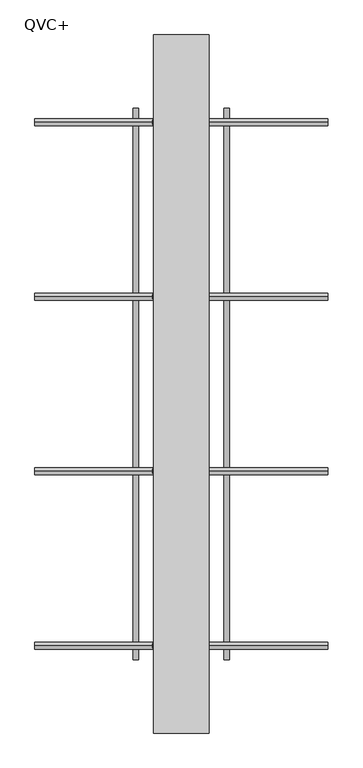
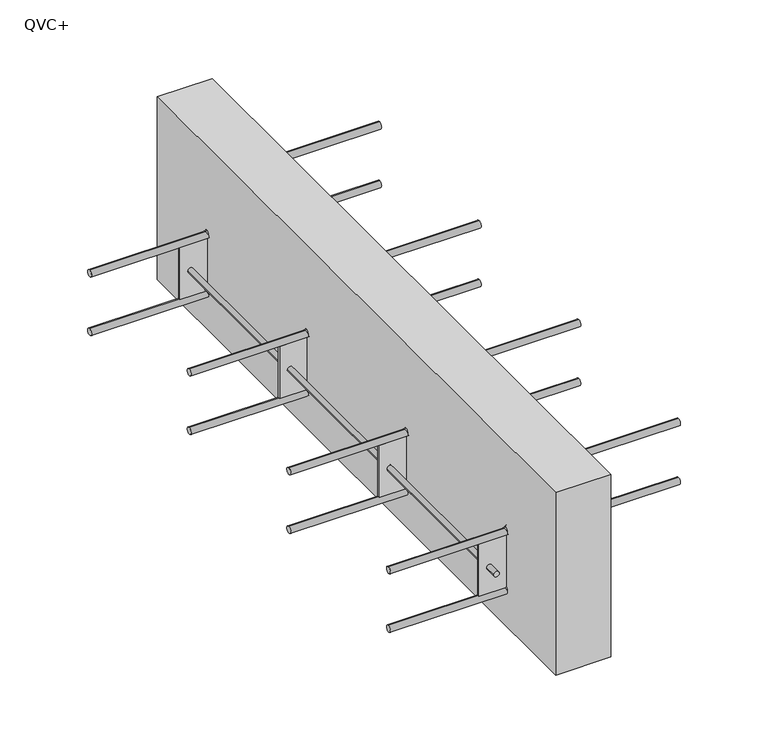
"""IFC4 building model written with IfcOpenShell, lengths in millimetres: proxy geometry, ACINOXplus_Typenreihe_QV : QVC+."""

from ifc_helpers import new_model, si_unit, point, frame, frame_2d, origin, place, context, project, spatial, polyline, circle_curve, ellipse_curve, trimmed, segment, composite_curve, outline, extrude, source, transform, mapped, element, save
from ifc_brep_helpers import plane_surface, cylinder_surface, advanced_brep


def qvc_5e56f12e(model_context):
    return source(origin(), model_context, "Body", "SolidModel", [
        extrude(outline(polyline([(40.0, 500.0), (40.0, -500.0), (-40.0, -500.0), (-40.0, 500.0), (40.0, 500.0)])), frame((0.0, 0.0, -200.0), z_axis=(0.0, 0.0, 1.0), x_axis=(1.0, 0.0, 0.0)), (0.0, 0.0, 1.0), 280.0),
        extrude(outline(polyline([(-60.0, -40.0), (-60.0, -80.0), (-140.0, -80.0), (-140.0, -40.0), (-60.0, 40.0), (-60.0, 80.0), (20.0, 80.0), (20.0, 40.0), (-60.0, -40.0)])), frame((0.0, 123.5, 0.0), z_axis=(0.0, 1.0, 0.0), x_axis=(0.0, 0.0, 1.0)), (0.0, 0.0, 1.0), 3.0),
        extrude(outline(polyline([(-60.0, -40.0), (-60.0, -80.0), (-140.0, -80.0), (-140.0, -40.0), (-60.0, 40.0), (-60.0, 80.0), (20.0, 80.0), (20.0, 40.0), (-60.0, -40.0)])), frame((0.0, -126.5, 0.0), z_axis=(0.0, 1.0, 0.0), x_axis=(0.0, 0.0, 1.0)), (0.0, 0.0, 1.0), 3.0),
        extrude(outline(polyline([(-60.0, -40.0), (-60.0, -80.0), (-140.0, -80.0), (-140.0, -40.0), (-60.0, 40.0), (-60.0, 80.0), (20.0, 80.0), (20.0, 40.0), (-60.0, -40.0)])), frame((0.0, 373.5, 0.0), z_axis=(0.0, 1.0, 0.0), x_axis=(0.0, 0.0, 1.0)), (0.0, 0.0, 1.0), 3.0),
        extrude(outline(polyline([(-60.0, -40.0), (-60.0, -80.0), (-140.0, -80.0), (-140.0, -40.0), (-60.0, 40.0), (-60.0, 80.0), (20.0, 80.0), (20.0, 40.0), (-60.0, -40.0)])), frame((0.0, -376.5, 0.0), z_axis=(0.0, 1.0, 0.0), x_axis=(0.0, 0.0, 1.0)), (0.0, 0.0, 1.0), 3.0),
        extrude(outline(composite_curve([segment(trimmed(circle_curve(frame_2d((-100.0, -65.0)), 4.0), [point((-100.0, -69.0))], [point((-100.0, -61.0))], False, "CARTESIAN"), True, "CONTINUOUS"), segment(trimmed(circle_curve(frame_2d((-100.0, -65.0)), 4.0), [point((-100.0, -61.0))], [point((-100.0, -69.0))], False, "CARTESIAN"), True, "CONTINUOUS")], self_intersect=False)), frame((0.0, 376.5, 0.0), z_axis=(0.0, 1.0, 0.0), x_axis=(0.0, 0.0, 1.0)), (0.0, 0.0, 1.0), 18.5),
        extrude(outline(composite_curve([segment(trimmed(circle_curve(frame_2d((-100.0, -65.0)), 4.0), [point((-100.0, -61.0))], [point((-100.0, -69.0))], False, "CARTESIAN"), True, "CONTINUOUS"), segment(trimmed(circle_curve(frame_2d((-100.0, -65.0)), 4.0), [point((-100.0, -69.0))], [point((-100.0, -61.0))], False, "CARTESIAN"), True, "CONTINUOUS")], self_intersect=False)), frame((0.0, -395.0, 0.0), z_axis=(0.0, 1.0, 0.0), x_axis=(0.0, 0.0, 1.0)), (0.0, 0.0, 1.0), 18.5),
        extrude(outline(composite_curve([segment(trimmed(circle_curve(frame_2d((-100.0, -65.0)), 4.0), [point((-100.0, -69.0))], [point((-100.0, -61.0))], False, "CARTESIAN"), True, "CONTINUOUS"), segment(trimmed(circle_curve(frame_2d((-100.0, -65.0)), 4.0), [point((-100.0, -61.0))], [point((-100.0, -69.0))], False, "CARTESIAN"), True, "CONTINUOUS")], self_intersect=False)), frame((0.0, -373.5, 0.0), z_axis=(0.0, 1.0, 0.0), x_axis=(0.0, 0.0, 1.0)), (0.0, 0.0, 1.0), 247.0),
        extrude(outline(composite_curve([segment(trimmed(circle_curve(frame_2d((-100.0, -65.0)), 4.0), [point((-100.0, -69.0))], [point((-100.0, -61.0))], False, "CARTESIAN"), True, "CONTINUOUS"), segment(trimmed(circle_curve(frame_2d((-100.0, -65.0)), 4.0), [point((-100.0, -61.0))], [point((-100.0, -69.0))], False, "CARTESIAN"), True, "CONTINUOUS")], self_intersect=False)), frame((0.0, -123.5, 0.0), z_axis=(0.0, 1.0, 0.0), x_axis=(0.0, 0.0, 1.0)), (0.0, 0.0, 1.0), 497.0),
        extrude(outline(composite_curve([segment(trimmed(circle_curve(frame_2d((-20.0, 65.0)), 4.0), [point((-20.0, 61.0))], [point((-20.0, 69.0))], False, "CARTESIAN"), True, "CONTINUOUS"), segment(trimmed(circle_curve(frame_2d((-20.0, 65.0)), 4.0), [point((-20.0, 69.0))], [point((-20.0, 61.0))], False, "CARTESIAN"), True, "CONTINUOUS")], self_intersect=False)), frame((0.0, 376.5, 0.0), z_axis=(0.0, 1.0, 0.0), x_axis=(0.0, 0.0, 1.0)), (0.0, 0.0, 1.0), 18.5),
        extrude(outline(composite_curve([segment(trimmed(circle_curve(frame_2d((-20.0, 65.0)), 4.0), [point((-20.0, 69.0))], [point((-20.0, 61.0))], False, "CARTESIAN"), True, "CONTINUOUS"), segment(trimmed(circle_curve(frame_2d((-20.0, 65.0)), 4.0), [point((-20.0, 61.0))], [point((-20.0, 69.0))], False, "CARTESIAN"), True, "CONTINUOUS")], self_intersect=False)), frame((0.0, -395.0, 0.0), z_axis=(0.0, 1.0, 0.0), x_axis=(0.0, 0.0, 1.0)), (0.0, 0.0, 1.0), 18.5),
        extrude(outline(composite_curve([segment(trimmed(circle_curve(frame_2d((-20.0, 65.0)), 4.0), [point((-20.0, 61.0))], [point((-20.0, 69.0))], False, "CARTESIAN"), True, "CONTINUOUS"), segment(trimmed(circle_curve(frame_2d((-20.0, 65.0)), 4.0), [point((-20.0, 69.0))], [point((-20.0, 61.0))], False, "CARTESIAN"), True, "CONTINUOUS")], self_intersect=False)), frame((0.0, -123.5, 0.0), z_axis=(0.0, 1.0, 0.0), x_axis=(0.0, 0.0, 1.0)), (0.0, 0.0, 1.0), 497.0),
        extrude(outline(composite_curve([segment(trimmed(circle_curve(frame_2d((-20.0, 65.0)), 4.0), [point((-20.0, 61.0))], [point((-20.0, 69.0))], False, "CARTESIAN"), True, "CONTINUOUS"), segment(trimmed(circle_curve(frame_2d((-20.0, 65.0)), 4.0), [point((-20.0, 69.0))], [point((-20.0, 61.0))], False, "CARTESIAN"), True, "CONTINUOUS")], self_intersect=False)), frame((0.0, -373.5, 0.0), z_axis=(0.0, 1.0, 0.0), x_axis=(0.0, 0.0, 1.0)), (0.0, 0.0, 1.0), 247.0),
        advanced_brep(
        [(-210.0, 125.0, -150.0), (-210.0, 125.0, -140.0), (-37.9289322, 125.0, -150.0), (-42.0710678, 125.0, -140.0), (42.0710678, 125.0, -70.0), (37.9289322, 125.0, -60.0), (210.0, 125.0, -70.0), (210.0, 125.0, -60.0)],
        [
            (0, 1, circle_curve(frame((-210.0, 125.0, -145.0), z_axis=(-1.0, 0.0, 0.0), x_axis=(0.0, 0.0, 1.0)), 5.0)),
            (1, 0, circle_curve(frame((-210.0, 125.0, -145.0), z_axis=(-1.0, 0.0, 0.0), x_axis=(0.0, 0.0, 1.0)), 5.0)),
            (0, 2),
            (2, 3, ellipse_curve(frame((-40.0, 125.0, -145.0), z_axis=(-0.9238795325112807, 0.0, -0.38268343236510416), x_axis=(-0.38268343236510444, 0.0, 0.9238795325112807)), 5.411961, 5.0)),
            (3, 1),
            (3, 2, ellipse_curve(frame((-40.0, 125.0, -145.0), z_axis=(-0.9238795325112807, 0.0, -0.38268343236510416), x_axis=(-0.38268343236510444, 0.0, 0.9238795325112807)), 5.411961, 5.0)),
            (2, 4),
            (4, 5, ellipse_curve(frame((40.0, 125.0, -65.0), z_axis=(-0.9238795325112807, 0.0, -0.38268343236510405), x_axis=(0.3826834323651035, 0.0, -0.923879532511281)), 5.411961, 5.0)),
            (5, 3),
            (5, 4, ellipse_curve(frame((40.0, 125.0, -65.0), z_axis=(-0.9238795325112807, 0.0, -0.38268343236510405), x_axis=(0.3826834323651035, 0.0, -0.923879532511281)), 5.411961, 5.0)),
            (6, 7, circle_curve(frame((210.0, 125.0, -65.0), z_axis=(1.0, 0.0, 0.0), x_axis=(0.0, 0.0, 1.0)), 5.0)),
            (7, 6, circle_curve(frame((210.0, 125.0, -65.0), z_axis=(1.0, 0.0, 0.0), x_axis=(0.0, 0.0, 1.0)), 5.0)),
            (4, 6),
            (7, 5),
        ],
        [
            plane_surface(frame((-210.0, 125.0, -145.0), z_axis=(-1.0, 0.0, 0.0), x_axis=(0.0, -1.0, 0.0))),
            cylinder_surface(frame((-210.0, 125.0, -145.0), z_axis=(-1.0, 0.0, 0.0), x_axis=(0.0, 0.0, 1.0)), 5.0),
            cylinder_surface(frame((-40.0, 125.0, -145.0), z_axis=(-0.7071067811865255, 0.0, -0.7071067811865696), x_axis=(-0.7071067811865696, 0.0, 0.7071067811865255)), 5.0),
            plane_surface(frame((210.0, 125.0, -65.0), z_axis=(1.0, 0.0, 0.0), x_axis=(0.0, -1.0, 0.0))),
            cylinder_surface(frame((40.0, 125.0, -65.0), z_axis=(-1.0, 0.0, 0.0), x_axis=(0.0, 0.0, 1.0)), 5.0),
        ],
        [
            (0, [[1, 2]]),
            (1, [[-1, 3, 4, 5]]),
            (1, [[-2, -5, 6, -3]]),
            (2, [[-4, 7, 8, 9]]),
            (2, [[-6, -9, 10, -7]]),
            (3, [[11, 12]]),
            (4, [[-8, 13, -12, 14]]),
            (4, [[-10, -14, -11, -13]]),
        ],
    ),
        advanced_brep(
        [(-210.0, 375.0, -150.0), (-210.0, 375.0, -140.0), (-37.9289322, 375.0, -150.0), (-42.0710678, 375.0, -140.0), (42.0710678, 375.0, -70.0), (37.9289322, 375.0, -60.0), (210.0, 375.0, -70.0), (210.0, 375.0, -60.0)],
        [
            (0, 1, circle_curve(frame((-210.0, 375.0, -145.0), z_axis=(-1.0, 0.0, 0.0), x_axis=(0.0, 0.0, 1.0)), 5.0)),
            (1, 0, circle_curve(frame((-210.0, 375.0, -145.0), z_axis=(-1.0, 0.0, 0.0), x_axis=(0.0, 0.0, 1.0)), 5.0)),
            (0, 2),
            (2, 3, ellipse_curve(frame((-40.0, 375.0, -145.0), z_axis=(-0.9238795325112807, 0.0, -0.38268343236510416), x_axis=(-0.38268343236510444, 0.0, 0.9238795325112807)), 5.411961, 5.0)),
            (3, 1),
            (3, 2, ellipse_curve(frame((-40.0, 375.0, -145.0), z_axis=(-0.9238795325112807, 0.0, -0.38268343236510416), x_axis=(-0.38268343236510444, 0.0, 0.9238795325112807)), 5.411961, 5.0)),
            (2, 4),
            (4, 5, ellipse_curve(frame((40.0, 375.0, -65.0), z_axis=(-0.9238795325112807, 0.0, -0.38268343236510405), x_axis=(0.3826834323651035, 0.0, -0.923879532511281)), 5.411961, 5.0)),
            (5, 3),
            (5, 4, ellipse_curve(frame((40.0, 375.0, -65.0), z_axis=(-0.9238795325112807, 0.0, -0.38268343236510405), x_axis=(0.3826834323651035, 0.0, -0.923879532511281)), 5.411961, 5.0)),
            (6, 7, circle_curve(frame((210.0, 375.0, -65.0), z_axis=(1.0, 0.0, 0.0), x_axis=(0.0, 0.0, 1.0)), 5.0)),
            (7, 6, circle_curve(frame((210.0, 375.0, -65.0), z_axis=(1.0, 0.0, 0.0), x_axis=(0.0, 0.0, 1.0)), 5.0)),
            (4, 6),
            (7, 5),
        ],
        [
            plane_surface(frame((-210.0, 375.0, -145.0), z_axis=(-1.0, 0.0, 0.0), x_axis=(0.0, -1.0, 0.0))),
            cylinder_surface(frame((-210.0, 375.0, -145.0), z_axis=(-1.0, 0.0, 0.0), x_axis=(0.0, 0.0, 1.0)), 5.0),
            cylinder_surface(frame((-40.0, 375.0, -145.0), z_axis=(-0.7071067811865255, 0.0, -0.7071067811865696), x_axis=(-0.7071067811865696, 0.0, 0.7071067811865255)), 5.0),
            plane_surface(frame((210.0, 375.0, -65.0), z_axis=(1.0, 0.0, 0.0), x_axis=(0.0, -1.0, 0.0))),
            cylinder_surface(frame((40.0, 375.0, -65.0), z_axis=(-1.0, 0.0, 0.0), x_axis=(0.0, 0.0, 1.0)), 5.0),
        ],
        [
            (0, [[1, 2]]),
            (1, [[-1, 3, 4, 5]]),
            (1, [[-2, -5, 6, -3]]),
            (2, [[-4, 7, 8, 9]]),
            (2, [[-6, -9, 10, -7]]),
            (3, [[11, 12]]),
            (4, [[-8, 13, -12, 14]]),
            (4, [[-10, -14, -11, -13]]),
        ],
    ),
        advanced_brep(
        [(-210.0, -125.0, -150.0), (-210.0, -125.0, -140.0), (-37.9289322, -125.0, -150.0), (-42.0710678, -125.0, -140.0), (42.0710678, -125.0, -70.0), (37.9289322, -125.0, -60.0), (210.0, -125.0, -70.0), (210.0, -125.0, -60.0)],
        [
            (0, 1, circle_curve(frame((-210.0, -125.0, -145.0), z_axis=(-1.0, 0.0, 0.0), x_axis=(0.0, 0.0, 1.0)), 5.0)),
            (1, 0, circle_curve(frame((-210.0, -125.0, -145.0), z_axis=(-1.0, 0.0, 0.0), x_axis=(0.0, 0.0, 1.0)), 5.0)),
            (0, 2),
            (2, 3, ellipse_curve(frame((-40.0, -125.0, -145.0), z_axis=(-0.9238795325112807, 0.0, -0.38268343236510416), x_axis=(-0.38268343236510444, 0.0, 0.9238795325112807)), 5.411961, 5.0)),
            (3, 1),
            (3, 2, ellipse_curve(frame((-40.0, -125.0, -145.0), z_axis=(-0.9238795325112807, 0.0, -0.38268343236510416), x_axis=(-0.38268343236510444, 0.0, 0.9238795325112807)), 5.411961, 5.0)),
            (2, 4),
            (4, 5, ellipse_curve(frame((40.0, -125.0, -65.0), z_axis=(-0.9238795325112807, 0.0, -0.38268343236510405), x_axis=(0.3826834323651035, 0.0, -0.923879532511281)), 5.411961, 5.0)),
            (5, 3),
            (5, 4, ellipse_curve(frame((40.0, -125.0, -65.0), z_axis=(-0.9238795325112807, 0.0, -0.38268343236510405), x_axis=(0.3826834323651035, 0.0, -0.923879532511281)), 5.411961, 5.0)),
            (6, 7, circle_curve(frame((210.0, -125.0, -65.0), z_axis=(1.0, 0.0, 0.0), x_axis=(0.0, 0.0, 1.0)), 5.0)),
            (7, 6, circle_curve(frame((210.0, -125.0, -65.0), z_axis=(1.0, 0.0, 0.0), x_axis=(0.0, 0.0, 1.0)), 5.0)),
            (4, 6),
            (7, 5),
        ],
        [
            plane_surface(frame((-210.0, -125.0, -145.0), z_axis=(-1.0, 0.0, 0.0), x_axis=(0.0, -1.0, 0.0))),
            cylinder_surface(frame((-210.0, -125.0, -145.0), z_axis=(-1.0, 0.0, 0.0), x_axis=(0.0, 0.0, 1.0)), 5.0),
            cylinder_surface(frame((-40.0, -125.0, -145.0), z_axis=(-0.7071067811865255, 0.0, -0.7071067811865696), x_axis=(-0.7071067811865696, 0.0, 0.7071067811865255)), 5.0),
            plane_surface(frame((210.0, -125.0, -65.0), z_axis=(1.0, 0.0, 0.0), x_axis=(0.0, -1.0, 0.0))),
            cylinder_surface(frame((40.0, -125.0, -65.0), z_axis=(-1.0, 0.0, 0.0), x_axis=(0.0, 0.0, 1.0)), 5.0),
        ],
        [
            (0, [[1, 2]]),
            (1, [[-1, 3, 4, 5]]),
            (1, [[-2, -5, 6, -3]]),
            (2, [[-4, 7, 8, 9]]),
            (2, [[-6, -9, 10, -7]]),
            (3, [[11, 12]]),
            (4, [[-8, 13, -12, 14]]),
            (4, [[-10, -14, -11, -13]]),
        ],
    ),
        advanced_brep(
        [(-210.0, -375.0, -150.0), (-210.0, -375.0, -140.0), (-37.9289322, -375.0, -150.0), (-42.0710678, -375.0, -140.0), (42.0710678, -375.0, -70.0), (37.9289322, -375.0, -60.0), (210.0, -375.0, -70.0), (210.0, -375.0, -60.0)],
        [
            (0, 1, circle_curve(frame((-210.0, -375.0, -145.0), z_axis=(-1.0, 0.0, 0.0), x_axis=(0.0, 0.0, 1.0)), 5.0)),
            (1, 0, circle_curve(frame((-210.0, -375.0, -145.0), z_axis=(-1.0, 0.0, 0.0), x_axis=(0.0, 0.0, 1.0)), 5.0)),
            (0, 2),
            (2, 3, ellipse_curve(frame((-40.0, -375.0, -145.0), z_axis=(-0.9238795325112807, 0.0, -0.38268343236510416), x_axis=(-0.38268343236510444, 0.0, 0.9238795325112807)), 5.411961, 5.0)),
            (3, 1),
            (3, 2, ellipse_curve(frame((-40.0, -375.0, -145.0), z_axis=(-0.9238795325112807, 0.0, -0.38268343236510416), x_axis=(-0.38268343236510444, 0.0, 0.9238795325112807)), 5.411961, 5.0)),
            (2, 4),
            (4, 5, ellipse_curve(frame((40.0, -375.0, -65.0), z_axis=(-0.9238795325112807, 0.0, -0.38268343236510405), x_axis=(0.3826834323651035, 0.0, -0.923879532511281)), 5.411961, 5.0)),
            (5, 3),
            (5, 4, ellipse_curve(frame((40.0, -375.0, -65.0), z_axis=(-0.9238795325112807, 0.0, -0.38268343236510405), x_axis=(0.3826834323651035, 0.0, -0.923879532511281)), 5.411961, 5.0)),
            (6, 7, circle_curve(frame((210.0, -375.0, -65.0), z_axis=(1.0, 0.0, 0.0), x_axis=(0.0, 0.0, 1.0)), 5.0)),
            (7, 6, circle_curve(frame((210.0, -375.0, -65.0), z_axis=(1.0, 0.0, 0.0), x_axis=(0.0, 0.0, 1.0)), 5.0)),
            (4, 6),
            (7, 5),
        ],
        [
            plane_surface(frame((-210.0, -375.0, -145.0), z_axis=(-1.0, 0.0, 0.0), x_axis=(0.0, -1.0, 0.0))),
            cylinder_surface(frame((-210.0, -375.0, -145.0), z_axis=(-1.0, 0.0, 0.0), x_axis=(0.0, 0.0, 1.0)), 5.0),
            cylinder_surface(frame((-40.0, -375.0, -145.0), z_axis=(-0.7071067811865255, 0.0, -0.7071067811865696), x_axis=(-0.7071067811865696, 0.0, 0.7071067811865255)), 5.0),
            plane_surface(frame((210.0, -375.0, -65.0), z_axis=(1.0, 0.0, 0.0), x_axis=(0.0, -1.0, 0.0))),
            cylinder_surface(frame((40.0, -375.0, -65.0), z_axis=(-1.0, 0.0, 0.0), x_axis=(0.0, 0.0, 1.0)), 5.0),
        ],
        [
            (0, [[1, 2]]),
            (1, [[-1, 3, 4, 5]]),
            (1, [[-2, -5, 6, -3]]),
            (2, [[-4, 7, 8, 9]]),
            (2, [[-6, -9, 10, -7]]),
            (3, [[11, 12]]),
            (4, [[-8, 13, -12, 14]]),
            (4, [[-10, -14, -11, -13]]),
        ],
    ),
        advanced_brep(
        [(-210.0, 125.0, -60.0), (-210.0, 125.0, -50.0), (-37.9289322, 125.0, -60.0), (-42.0710678, 125.0, -50.0), (210.0, 125.0, 20.0), (210.0, 125.0, 30.0), (37.9289322, 125.0, 30.0), (42.0710678, 125.0, 20.0)],
        [
            (0, 1, circle_curve(frame((-210.0, 125.0, -55.0), z_axis=(-1.0, 0.0, 0.0), x_axis=(0.0, 0.0, 1.0)), 5.0)),
            (1, 0, circle_curve(frame((-210.0, 125.0, -55.0), z_axis=(-1.0, 0.0, 0.0), x_axis=(0.0, 0.0, 1.0)), 5.0)),
            (0, 2),
            (2, 3, ellipse_curve(frame((-40.0, 125.0, -55.0), z_axis=(-0.9238795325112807, 0.0, -0.3826834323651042), x_axis=(-0.38268343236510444, 0.0, 0.9238795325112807)), 5.411961, 5.0)),
            (3, 1),
            (3, 2, ellipse_curve(frame((-40.0, 125.0, -55.0), z_axis=(-0.9238795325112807, 0.0, -0.3826834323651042), x_axis=(-0.38268343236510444, 0.0, 0.9238795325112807)), 5.411961, 5.0)),
            (4, 5, circle_curve(frame((210.0, 125.0, 25.0), z_axis=(1.0, 0.0, 0.0), x_axis=(0.0, 0.0, 1.0)), 5.0)),
            (5, 4, circle_curve(frame((210.0, 125.0, 25.0), z_axis=(1.0, 0.0, 0.0), x_axis=(0.0, 0.0, 1.0)), 5.0)),
            (6, 7, ellipse_curve(frame((40.0, 125.0, 25.0), z_axis=(0.9238795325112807, 0.0, 0.3826834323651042), x_axis=(-0.38268343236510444, 0.0, 0.9238795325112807)), 5.411961, 5.0)),
            (7, 4),
            (5, 6),
            (7, 6, ellipse_curve(frame((40.0, 125.0, 25.0), z_axis=(0.9238795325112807, 0.0, 0.3826834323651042), x_axis=(-0.38268343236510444, 0.0, 0.9238795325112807)), 5.411961, 5.0)),
            (2, 7),
            (6, 3),
        ],
        [
            plane_surface(frame((-210.0, 125.0, -55.0), z_axis=(-1.0, 0.0, 0.0), x_axis=(0.0, -1.0, 0.0))),
            cylinder_surface(frame((-210.0, 125.0, -55.0), z_axis=(-1.0, 0.0, 0.0), x_axis=(0.0, 0.0, 1.0)), 5.0),
            plane_surface(frame((210.0, 125.0, 25.0), z_axis=(1.0, 0.0, 0.0), x_axis=(0.0, -1.0, 0.0))),
            cylinder_surface(frame((40.0, 125.0, 25.0), z_axis=(-1.0, 0.0, 0.0), x_axis=(0.0, 0.0, 1.0)), 5.0),
            cylinder_surface(frame((-40.0, 125.0, -55.0), z_axis=(-0.7071067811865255, 0.0, -0.7071067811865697), x_axis=(-0.7071067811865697, 0.0, 0.7071067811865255)), 5.0),
        ],
        [
            (0, [[1, 2]]),
            (1, [[-1, 3, 4, 5]]),
            (1, [[-2, -5, 6, -3]]),
            (2, [[7, 8]]),
            (3, [[9, 10, -8, 11]]),
            (3, [[12, -11, -7, -10]]),
            (4, [[-4, 13, -9, 14]]),
            (4, [[-6, -14, -12, -13]]),
        ],
    ),
        advanced_brep(
        [(-210.0, 375.0, -60.0), (-210.0, 375.0, -50.0), (-37.9289322, 375.0, -60.0), (-42.0710678, 375.0, -50.0), (210.0, 375.0, 20.0), (210.0, 375.0, 30.0), (37.9289322, 375.0, 30.0), (42.0710678, 375.0, 20.0)],
        [
            (0, 1, circle_curve(frame((-210.0, 375.0, -55.0), z_axis=(-1.0, 0.0, 0.0), x_axis=(0.0, 0.0, 1.0)), 5.0)),
            (1, 0, circle_curve(frame((-210.0, 375.0, -55.0), z_axis=(-1.0, 0.0, 0.0), x_axis=(0.0, 0.0, 1.0)), 5.0)),
            (0, 2),
            (2, 3, ellipse_curve(frame((-40.0, 375.0, -55.0), z_axis=(-0.9238795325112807, 0.0, -0.3826834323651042), x_axis=(-0.38268343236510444, 0.0, 0.9238795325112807)), 5.411961, 5.0)),
            (3, 1),
            (3, 2, ellipse_curve(frame((-40.0, 375.0, -55.0), z_axis=(-0.9238795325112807, 0.0, -0.3826834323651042), x_axis=(-0.38268343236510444, 0.0, 0.9238795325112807)), 5.411961, 5.0)),
            (4, 5, circle_curve(frame((210.0, 375.0, 25.0), z_axis=(1.0, 0.0, 0.0), x_axis=(0.0, 0.0, 1.0)), 5.0)),
            (5, 4, circle_curve(frame((210.0, 375.0, 25.0), z_axis=(1.0, 0.0, 0.0), x_axis=(0.0, 0.0, 1.0)), 5.0)),
            (6, 7, ellipse_curve(frame((40.0, 375.0, 25.0), z_axis=(0.9238795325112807, 0.0, 0.3826834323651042), x_axis=(-0.38268343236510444, 0.0, 0.9238795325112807)), 5.411961, 5.0)),
            (7, 4),
            (5, 6),
            (7, 6, ellipse_curve(frame((40.0, 375.0, 25.0), z_axis=(0.9238795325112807, 0.0, 0.3826834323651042), x_axis=(-0.38268343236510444, 0.0, 0.9238795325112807)), 5.411961, 5.0)),
            (2, 7),
            (6, 3),
        ],
        [
            plane_surface(frame((-210.0, 375.0, -55.0), z_axis=(-1.0, 0.0, 0.0), x_axis=(0.0, -1.0, 0.0))),
            cylinder_surface(frame((-210.0, 375.0, -55.0), z_axis=(-1.0, 0.0, 0.0), x_axis=(0.0, 0.0, 1.0)), 5.0),
            plane_surface(frame((210.0, 375.0, 25.0), z_axis=(1.0, 0.0, 0.0), x_axis=(0.0, -1.0, 0.0))),
            cylinder_surface(frame((40.0, 375.0, 25.0), z_axis=(-1.0, 0.0, 0.0), x_axis=(0.0, 0.0, 1.0)), 5.0),
            cylinder_surface(frame((-40.0, 375.0, -55.0), z_axis=(-0.7071067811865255, 0.0, -0.7071067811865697), x_axis=(-0.7071067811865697, 0.0, 0.7071067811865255)), 5.0),
        ],
        [
            (0, [[1, 2]]),
            (1, [[-1, 3, 4, 5]]),
            (1, [[-2, -5, 6, -3]]),
            (2, [[7, 8]]),
            (3, [[9, 10, -8, 11]]),
            (3, [[12, -11, -7, -10]]),
            (4, [[-4, 13, -9, 14]]),
            (4, [[-6, -14, -12, -13]]),
        ],
    ),
        advanced_brep(
        [(-210.0, -125.0, -60.0), (-210.0, -125.0, -50.0), (-37.9289322, -125.0, -60.0), (-42.0710678, -125.0, -50.0), (210.0, -125.0, 20.0), (210.0, -125.0, 30.0), (37.9289322, -125.0, 30.0), (42.0710678, -125.0, 20.0)],
        [
            (0, 1, circle_curve(frame((-210.0, -125.0, -55.0), z_axis=(-1.0, 0.0, 0.0), x_axis=(0.0, 0.0, 1.0)), 5.0)),
            (1, 0, circle_curve(frame((-210.0, -125.0, -55.0), z_axis=(-1.0, 0.0, 0.0), x_axis=(0.0, 0.0, 1.0)), 5.0)),
            (0, 2),
            (2, 3, ellipse_curve(frame((-40.0, -125.0, -55.0), z_axis=(-0.9238795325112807, 0.0, -0.3826834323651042), x_axis=(-0.38268343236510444, 0.0, 0.9238795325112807)), 5.411961, 5.0)),
            (3, 1),
            (3, 2, ellipse_curve(frame((-40.0, -125.0, -55.0), z_axis=(-0.9238795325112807, 0.0, -0.3826834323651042), x_axis=(-0.38268343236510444, 0.0, 0.9238795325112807)), 5.411961, 5.0)),
            (4, 5, circle_curve(frame((210.0, -125.0, 25.0), z_axis=(1.0, 0.0, 0.0), x_axis=(0.0, 0.0, 1.0)), 5.0)),
            (5, 4, circle_curve(frame((210.0, -125.0, 25.0), z_axis=(1.0, 0.0, 0.0), x_axis=(0.0, 0.0, 1.0)), 5.0)),
            (6, 7, ellipse_curve(frame((40.0, -125.0, 25.0), z_axis=(0.9238795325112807, 0.0, 0.3826834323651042), x_axis=(-0.38268343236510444, 0.0, 0.9238795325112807)), 5.411961, 5.0)),
            (7, 4),
            (5, 6),
            (7, 6, ellipse_curve(frame((40.0, -125.0, 25.0), z_axis=(0.9238795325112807, 0.0, 0.3826834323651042), x_axis=(-0.38268343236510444, 0.0, 0.9238795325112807)), 5.411961, 5.0)),
            (2, 7),
            (6, 3),
        ],
        [
            plane_surface(frame((-210.0, -125.0, -55.0), z_axis=(-1.0, 0.0, 0.0), x_axis=(0.0, -1.0, 0.0))),
            cylinder_surface(frame((-210.0, -125.0, -55.0), z_axis=(-1.0, 0.0, 0.0), x_axis=(0.0, 0.0, 1.0)), 5.0),
            plane_surface(frame((210.0, -125.0, 25.0), z_axis=(1.0, 0.0, 0.0), x_axis=(0.0, -1.0, 0.0))),
            cylinder_surface(frame((40.0, -125.0, 25.0), z_axis=(-1.0, 0.0, 0.0), x_axis=(0.0, 0.0, 1.0)), 5.0),
            cylinder_surface(frame((-40.0, -125.0, -55.0), z_axis=(-0.7071067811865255, 0.0, -0.7071067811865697), x_axis=(-0.7071067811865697, 0.0, 0.7071067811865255)), 5.0),
        ],
        [
            (0, [[1, 2]]),
            (1, [[-1, 3, 4, 5]]),
            (1, [[-2, -5, 6, -3]]),
            (2, [[7, 8]]),
            (3, [[9, 10, -8, 11]]),
            (3, [[12, -11, -7, -10]]),
            (4, [[-4, 13, -9, 14]]),
            (4, [[-6, -14, -12, -13]]),
        ],
    ),
        advanced_brep(
        [(-210.0, -375.0, -60.0), (-210.0, -375.0, -50.0), (-37.9289322, -375.0, -60.0), (-42.0710678, -375.0, -50.0), (210.0, -375.0, 20.0), (210.0, -375.0, 30.0), (37.9289322, -375.0, 30.0), (42.0710678, -375.0, 20.0)],
        [
            (0, 1, circle_curve(frame((-210.0, -375.0, -55.0), z_axis=(-1.0, 0.0, 0.0), x_axis=(0.0, 0.0, 1.0)), 5.0)),
            (1, 0, circle_curve(frame((-210.0, -375.0, -55.0), z_axis=(-1.0, 0.0, 0.0), x_axis=(0.0, 0.0, 1.0)), 5.0)),
            (0, 2),
            (2, 3, ellipse_curve(frame((-40.0, -375.0, -55.0), z_axis=(-0.9238795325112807, 0.0, -0.3826834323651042), x_axis=(-0.38268343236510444, 0.0, 0.9238795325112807)), 5.411961, 5.0)),
            (3, 1),
            (3, 2, ellipse_curve(frame((-40.0, -375.0, -55.0), z_axis=(-0.9238795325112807, 0.0, -0.3826834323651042), x_axis=(-0.38268343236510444, 0.0, 0.9238795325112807)), 5.411961, 5.0)),
            (4, 5, circle_curve(frame((210.0, -375.0, 25.0), z_axis=(1.0, 0.0, 0.0), x_axis=(0.0, 0.0, 1.0)), 5.0)),
            (5, 4, circle_curve(frame((210.0, -375.0, 25.0), z_axis=(1.0, 0.0, 0.0), x_axis=(0.0, 0.0, 1.0)), 5.0)),
            (6, 7, ellipse_curve(frame((40.0, -375.0, 25.0), z_axis=(0.9238795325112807, 0.0, 0.3826834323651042), x_axis=(-0.38268343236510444, 0.0, 0.9238795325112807)), 5.411961, 5.0)),
            (7, 4),
            (5, 6),
            (7, 6, ellipse_curve(frame((40.0, -375.0, 25.0), z_axis=(0.9238795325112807, 0.0, 0.3826834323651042), x_axis=(-0.38268343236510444, 0.0, 0.9238795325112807)), 5.411961, 5.0)),
            (2, 7),
            (6, 3),
        ],
        [
            plane_surface(frame((-210.0, -375.0, -55.0), z_axis=(-1.0, 0.0, 0.0), x_axis=(0.0, -1.0, 0.0))),
            cylinder_surface(frame((-210.0, -375.0, -55.0), z_axis=(-1.0, 0.0, 0.0), x_axis=(0.0, 0.0, 1.0)), 5.0),
            plane_surface(frame((210.0, -375.0, 25.0), z_axis=(1.0, 0.0, 0.0), x_axis=(0.0, -1.0, 0.0))),
            cylinder_surface(frame((40.0, -375.0, 25.0), z_axis=(-1.0, 0.0, 0.0), x_axis=(0.0, 0.0, 1.0)), 5.0),
            cylinder_surface(frame((-40.0, -375.0, -55.0), z_axis=(-0.7071067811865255, 0.0, -0.7071067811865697), x_axis=(-0.7071067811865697, 0.0, 0.7071067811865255)), 5.0),
        ],
        [
            (0, [[1, 2]]),
            (1, [[-1, 3, 4, 5]]),
            (1, [[-2, -5, 6, -3]]),
            (2, [[7, 8]]),
            (3, [[9, 10, -8, 11]]),
            (3, [[12, -11, -7, -10]]),
            (4, [[-4, 13, -9, 14]]),
            (4, [[-6, -14, -12, -13]]),
        ],
    ),
    ])


if __name__ == "__main__":
    model = new_model("IFC4")
    model_context = context("Model", 3, world=origin())
    ifc_project = project(units=[si_unit("LENGTHUNIT", "METRE", prefix="MILLI")], contexts=[model_context])
    site = spatial("IfcSite", under=ifc_project)
    building = spatial("IfcBuilding", under=site)
    placement = place(None, origin())
    qvc_shape = qvc_5e56f12e(model_context)
    element("IfcBuildingElementProxy", 1, Name="ACINOXplus_Typenreihe_QV : QVC+", ObjectType="ACINOXplus_Typenreihe_QV : QVC+", at=placement, inside=building, context=model_context, shape_type="MappedRepresentation", body=[
        mapped(qvc_shape, transform((0.0, 0.0, 0.0), x_axis=(1.0, 0.0, 0.0), y_axis=(0.0, 1.0, 0.0), z_axis=(0.0, 0.0, 1.0))),
    ])
    save(model, "model.ifc")
